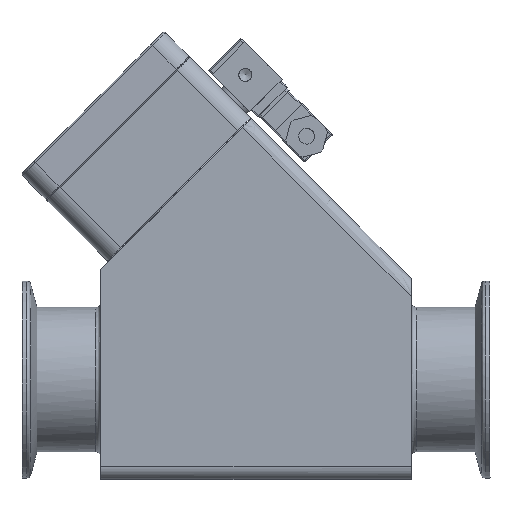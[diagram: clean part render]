
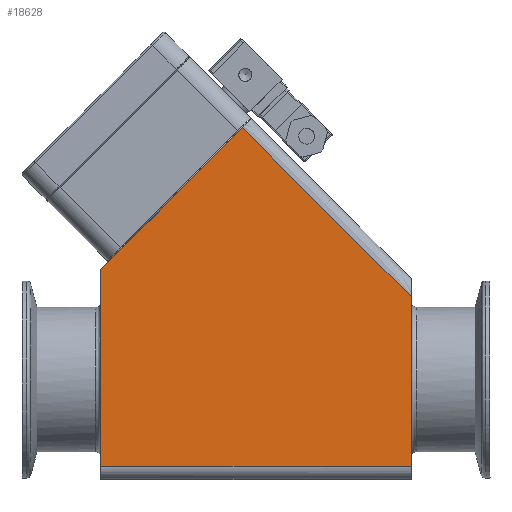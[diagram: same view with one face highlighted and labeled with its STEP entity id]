
A CAD part, top view. The second image highlights one B-rep face of the part: STEP entity #18628.
In plain terms, the highlighted free-form (B-spline) face has degree [1, 1] with [2, 2] control points.
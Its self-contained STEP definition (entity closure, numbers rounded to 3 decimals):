
#18493=CARTESIAN_POINT('V16',(118.,69.48,
   77.));
#18494=VERTEX_POINT('V16',#18493);
#18514=CARTESIAN_POINT('V17',(118.,5.,
   77.));
#18515=VERTEX_POINT('V17',#18514);
#18529=CARTESIAN_POINT('E24',(118.,69.48,
   77.0));
#18530=CARTESIAN_POINT('E24',(118.,5.,
   77.0));
#18531=B_SPLINE_CURVE_WITH_KNOTS('E24',1,(#18529,#18530),
   .POLYLINE_FORM.,.F.,.U.,(2,2),(0.092,
   0.935),.UNSPECIFIED.);
#18532=EDGE_CURVE('E24',#18494,#18515,#18531,.T.);
#18556=CARTESIAN_POINT('V35',(0.,5.0,77.)
   );
#18557=VERTEX_POINT('V35',#18556);
#18571=CARTESIAN_POINT('E50',(0.,5.0,77.)
   );
#18572=CARTESIAN_POINT('E50',(118.,5.,
   77.));
#18573=B_SPLINE_CURVE_WITH_KNOTS('E50',1,(#18571,#18572),
   .POLYLINE_FORM.,.F.,.U.,(2,2),(2.0,17.024),
   .UNSPECIFIED.);
#18574=EDGE_CURVE('E50',#18557,#18515,#18573,.T.);
#18588=CARTESIAN_POINT('V34',(0.0,80.,77.0));
#18589=VERTEX_POINT('V34',#18588);
#18595=CARTESIAN_POINT('E49',(0.0,5.,77.0));
#18596=CARTESIAN_POINT('E49',(0.0,80.,77.0));
#18597=B_SPLINE_CURVE_WITH_KNOTS('E49',1,(#18595,#18596),
   .POLYLINE_FORM.,.F.,.U.,(2,2),(0.063,1.0),
   .UNSPECIFIED.);
#18598=EDGE_CURVE('E49',#18557,#18589,#18597,.T.);
#18606=CARTESIAN_POINT('F18',(-5.9,-6.864,
   77.));
#18607=CARTESIAN_POINT('F18',(123.9,-6.864,
   77.));
#18608=CARTESIAN_POINT('F18',(-5.9,144.139,
   77.));
#18609=CARTESIAN_POINT('F18',(123.9,
   144.139,77.));
#18610=QUASI_UNIFORM_SURFACE('F18',1,1,((#18606,#18608),(#18607,
   #18609)),.PLANE_SURF.,.F.,.F.,.U.);
#18611=CARTESIAN_POINT('V33',(53.74,133.74,
   77.));
#18612=VERTEX_POINT('V33',#18611);
#18613=CARTESIAN_POINT('E47',(118.,69.48,
   77.));
#18614=CARTESIAN_POINT('E47',(53.74,133.74,
   77.));
#18615=B_SPLINE_CURVE_WITH_KNOTS('E47',1,(#18613,#18614),
   .POLYLINE_FORM.,.F.,.U.,(2,2),(2.0,13.571),
   .UNSPECIFIED.);
#18616=EDGE_CURVE('E47',#18494,#18612,#18615,.T.);
#18617=ORIENTED_EDGE('E47',*,*,#18616,.F.);
#18618=ORIENTED_EDGE('F11',*,*,#18532,.T.);
#18619=ORIENTED_EDGE('F40',*,*,#18574,.F.);
#18620=ORIENTED_EDGE('F24',*,*,#18598,.T.);
#18621=CARTESIAN_POINT('E48',(0.,80.0,77.0));
#18622=CARTESIAN_POINT('E48',(53.74,133.74,
   77.));
#18623=B_SPLINE_CURVE_WITH_KNOTS('E48',1,(#18621,#18622),
   .POLYLINE_FORM.,.F.,.U.,(2,2),(0.0,0.938),
   .UNSPECIFIED.);
#18624=EDGE_CURVE('E48',#18589,#18612,#18623,.T.);
#18625=ORIENTED_EDGE('E48',*,*,#18624,.T.);
#18626=EDGE_LOOP('F18',(#18617,#18618,#18619,#18620,#18625));
#18627=FACE_OUTER_BOUND('F18',#18626,.F.);
#18628=ADVANCED_FACE('F18',(#18627),#18610,.T.);
